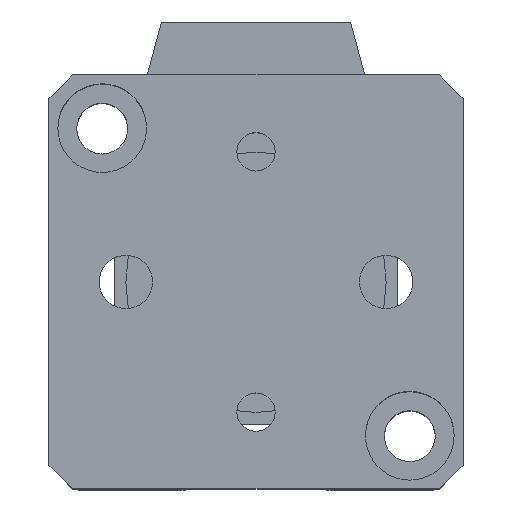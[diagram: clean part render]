
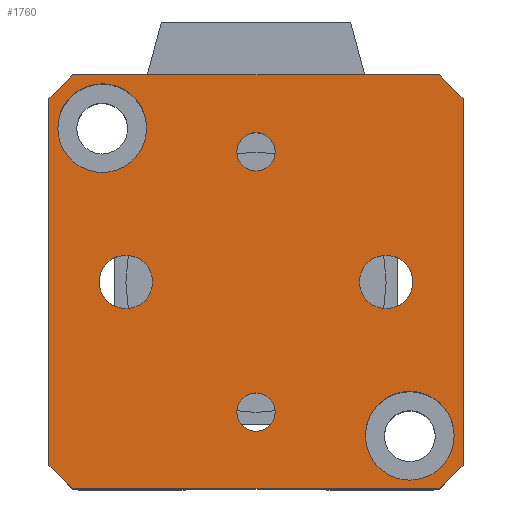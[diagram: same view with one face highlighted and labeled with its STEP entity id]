
A CAD part, top view. The second image highlights one B-rep face of the part: STEP entity #1760.
In plain terms, the highlighted planar face has unit normal (0, 0, 1).
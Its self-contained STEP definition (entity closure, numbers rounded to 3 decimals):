
#153=LINE('',#2889,#293);
#155=LINE('',#2893,#295);
#157=LINE('',#2897,#297);
#159=LINE('',#2901,#299);
#161=LINE('',#2905,#301);
#163=LINE('',#2909,#303);
#165=LINE('',#2913,#305);
#167=LINE('',#2916,#307);
#293=VECTOR('',#2390,31.);
#295=VECTOR('',#2394,2.828);
#297=VECTOR('',#2398,31.);
#299=VECTOR('',#2402,2.828);
#301=VECTOR('',#2406,31.);
#303=VECTOR('',#2410,2.828);
#305=VECTOR('',#2414,31.);
#307=VECTOR('',#2418,2.828);
#380=PLANE('',#1938);
#467=FACE_BOUND('',#735,.T.);
#468=FACE_BOUND('',#736,.T.);
#469=FACE_BOUND('',#737,.T.);
#470=FACE_BOUND('',#738,.T.);
#471=FACE_BOUND('',#739,.T.);
#472=FACE_BOUND('',#740,.T.);
#473=FACE_BOUND('',#741,.T.);
#735=EDGE_LOOP('',(#1579));
#736=EDGE_LOOP('',(#1580));
#737=EDGE_LOOP('',(#1581));
#738=EDGE_LOOP('',(#1582));
#739=EDGE_LOOP('',(#1583));
#740=EDGE_LOOP('',(#1584));
#741=EDGE_LOOP('',(#1585,#1586,#1587,#1588,#1589,#1590,#1591,#1592));
#796=CIRCLE('',#1894,1.621);
#798=CIRCLE('',#1897,1.621);
#803=CIRCLE('',#1905,2.25);
#807=CIRCLE('',#1912,2.25);
#808=CIRCLE('',#1914,3.75);
#810=CIRCLE('',#1917,3.75);
#938=VERTEX_POINT('',#2807);
#940=VERTEX_POINT('',#2812);
#945=VERTEX_POINT('',#2825);
#949=VERTEX_POINT('',#2836);
#950=VERTEX_POINT('',#2839);
#952=VERTEX_POINT('',#2844);
#970=VERTEX_POINT('',#2886);
#971=VERTEX_POINT('',#2888);
#972=VERTEX_POINT('',#2892);
#973=VERTEX_POINT('',#2896);
#974=VERTEX_POINT('',#2900);
#975=VERTEX_POINT('',#2904);
#976=VERTEX_POINT('',#2908);
#977=VERTEX_POINT('',#2912);
#1138=EDGE_CURVE('',#938,#938,#796,.T.);
#1140=EDGE_CURVE('',#940,#940,#798,.T.);
#1145=EDGE_CURVE('',#945,#945,#803,.T.);
#1149=EDGE_CURVE('',#949,#949,#807,.T.);
#1150=EDGE_CURVE('',#950,#950,#808,.T.);
#1152=EDGE_CURVE('',#952,#952,#810,.T.);
#1171=EDGE_CURVE('',#971,#970,#153,.T.);
#1173=EDGE_CURVE('',#972,#971,#155,.T.);
#1175=EDGE_CURVE('',#973,#972,#157,.T.);
#1177=EDGE_CURVE('',#974,#973,#159,.T.);
#1179=EDGE_CURVE('',#975,#974,#161,.T.);
#1181=EDGE_CURVE('',#976,#975,#163,.T.);
#1183=EDGE_CURVE('',#977,#976,#165,.T.);
#1185=EDGE_CURVE('',#970,#977,#167,.T.);
#1579=ORIENTED_EDGE('',*,*,#1138,.T.);
#1580=ORIENTED_EDGE('',*,*,#1140,.T.);
#1581=ORIENTED_EDGE('',*,*,#1145,.T.);
#1582=ORIENTED_EDGE('',*,*,#1149,.T.);
#1583=ORIENTED_EDGE('',*,*,#1150,.T.);
#1584=ORIENTED_EDGE('',*,*,#1152,.T.);
#1585=ORIENTED_EDGE('',*,*,#1185,.T.);
#1586=ORIENTED_EDGE('',*,*,#1183,.T.);
#1587=ORIENTED_EDGE('',*,*,#1181,.T.);
#1588=ORIENTED_EDGE('',*,*,#1179,.T.);
#1589=ORIENTED_EDGE('',*,*,#1177,.T.);
#1590=ORIENTED_EDGE('',*,*,#1175,.T.);
#1591=ORIENTED_EDGE('',*,*,#1173,.T.);
#1592=ORIENTED_EDGE('',*,*,#1171,.T.);
#1760=ADVANCED_FACE('',(#467,#468,#469,#470,#471,#472,#473),#380,.T.);
#1894=AXIS2_PLACEMENT_3D('',#2808,#2305,#2306);
#1897=AXIS2_PLACEMENT_3D('',#2813,#2311,#2312);
#1905=AXIS2_PLACEMENT_3D('',#2826,#2327,#2328);
#1912=AXIS2_PLACEMENT_3D('',#2837,#2341,#2342);
#1914=AXIS2_PLACEMENT_3D('',#2840,#2345,#2346);
#1917=AXIS2_PLACEMENT_3D('',#2845,#2351,#2352);
#1938=AXIS2_PLACEMENT_3D('',#2917,#2419,#2420);
#2305=DIRECTION('center_axis',(0.,0.,-1.));
#2306=DIRECTION('ref_axis',(-1.,0.,0.));
#2311=DIRECTION('center_axis',(0.,0.,-1.));
#2312=DIRECTION('ref_axis',(-1.,0.,0.));
#2327=DIRECTION('center_axis',(0.,0.,-1.));
#2328=DIRECTION('ref_axis',(-1.,0.,0.));
#2341=DIRECTION('center_axis',(0.,0.,-1.));
#2342=DIRECTION('ref_axis',(-1.,0.,0.));
#2345=DIRECTION('center_axis',(0.,0.,-1.));
#2346=DIRECTION('ref_axis',(-1.,0.,0.));
#2351=DIRECTION('center_axis',(0.,0.,-1.));
#2352=DIRECTION('ref_axis',(-1.,0.,0.));
#2390=DIRECTION('',(0.,1.,0.));
#2394=DIRECTION('',(0.707,0.707,0.));
#2398=DIRECTION('',(1.,0.,0.));
#2402=DIRECTION('',(0.707,-0.707,0.));
#2406=DIRECTION('',(0.,-1.,0.));
#2410=DIRECTION('',(-0.707,-0.707,0.));
#2414=DIRECTION('',(-1.,0.,0.));
#2418=DIRECTION('',(-0.707,0.707,0.));
#2419=DIRECTION('center_axis',(0.,0.,1.));
#2420=DIRECTION('ref_axis',(1.,0.,0.));
#2807=CARTESIAN_POINT('',(-9.379,0.,23.5));
#2808=CARTESIAN_POINT('Origin',(-11.,0.,23.5));
#2812=CARTESIAN_POINT('',(12.621,0.,23.5));
#2813=CARTESIAN_POINT('Origin',(11.,0.,23.5));
#2825=CARTESIAN_POINT('',(2.25,-11.,23.5));
#2826=CARTESIAN_POINT('Origin',(0.,-11.,23.5));
#2836=CARTESIAN_POINT('',(2.25,11.,23.5));
#2837=CARTESIAN_POINT('Origin',(0.,11.,23.5));
#2839=CARTESIAN_POINT('',(-9.25,-13.,23.5));
#2840=CARTESIAN_POINT('Origin',(-13.,-13.,23.5));
#2844=CARTESIAN_POINT('',(16.75,13.,23.5));
#2845=CARTESIAN_POINT('Origin',(13.,13.,23.5));
#2886=CARTESIAN_POINT('',(17.5,15.5,23.5));
#2888=CARTESIAN_POINT('',(17.5,-15.5,23.5));
#2889=CARTESIAN_POINT('',(17.5,15.5,23.5));
#2892=CARTESIAN_POINT('',(15.5,-17.5,23.5));
#2893=CARTESIAN_POINT('',(17.5,-15.5,23.5));
#2896=CARTESIAN_POINT('',(-15.5,-17.5,23.5));
#2897=CARTESIAN_POINT('',(15.5,-17.5,23.5));
#2900=CARTESIAN_POINT('',(-17.5,-15.5,23.5));
#2901=CARTESIAN_POINT('',(-15.5,-17.5,23.5));
#2904=CARTESIAN_POINT('',(-17.5,15.5,23.5));
#2905=CARTESIAN_POINT('',(-17.5,-15.5,23.5));
#2908=CARTESIAN_POINT('',(-15.5,17.5,23.5));
#2909=CARTESIAN_POINT('',(-17.5,15.5,23.5));
#2912=CARTESIAN_POINT('',(15.5,17.5,23.5));
#2913=CARTESIAN_POINT('',(-15.5,17.5,23.5));
#2916=CARTESIAN_POINT('',(15.5,17.5,23.5));
#2917=CARTESIAN_POINT('Origin',(0.,0.,
23.5));
